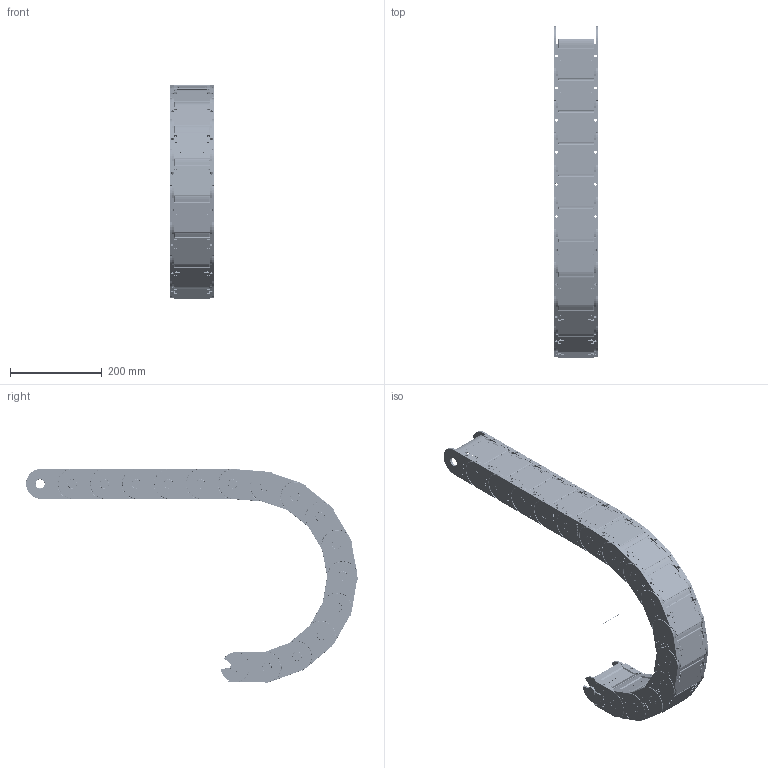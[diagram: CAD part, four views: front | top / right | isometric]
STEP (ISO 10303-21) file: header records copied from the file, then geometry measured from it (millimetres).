
FILE_DESCRIPTION((''),'2;1');
FILE_NAME('C:\Uebbing\PARAMETERKETTEN\KOLIBRI\Kol_65_095_5\Kol_65_095_5_R200.stp','2012-03-06T08:38:26',('Uebbing'),(''),'Autodesk Inventor 10','Autodesk Inventor 10','');
FILE_SCHEMA(('AUTOMOTIVE_DESIGN { 1 0 10303 214 1 1 1 1 }'));
Length unit declared in the file: millimetre
Products named in the file (5): KOLIBRI 65_095_5_PARAMETRISCH; Achse; Kol_65_095_5; Kol_65_095_5 Klappdeckel; Kol_65_095_5 Lasche
Assembly tree (19 placements, depth 3):
  KOLIBRI 65_095_5_PARAMETRISCH
    Achse
    Kol_65_095_5  x16
      Kol_65_095_5 Klappdeckel
      Kol_65_095_5 Lasche
Bounding box: 95 x 723.57 x 466.72 mm (x, y, z)
Volume: 1647337 mm3; surface area: 1062590.4 mm2
Topology: 33 solids, 33 shells, 9379 faces, 25508 edges, 16307 vertices
Faces by surface type: plane 3778, bspline 3472, cylinder 1729, torus 304, cone 64, sphere 32
Full cylindrical faces by diameter (mm): 1 x1, 2.514 x16, 4 x48, 4.414 x16, 6 x32, 20 x32
Entity records: 20026 total; most frequent: CARTESIAN_POINT 5563, ORIENTED_EDGE 3122, DIRECTION 2723, EDGE_CURVE 1561, VECTOR 1115, LINE 1115, VERTEX_POINT 1010, AXIS2_PLACEMENT_3D 804
